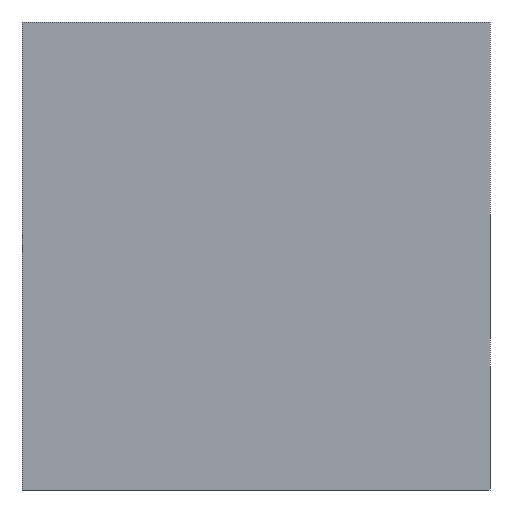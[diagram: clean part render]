
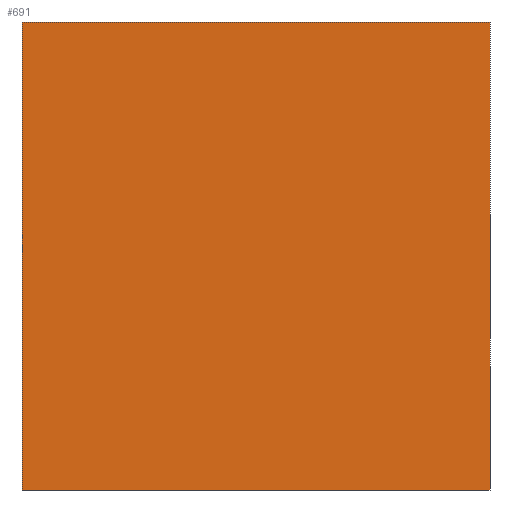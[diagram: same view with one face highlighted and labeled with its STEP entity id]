
A CAD part, front view. The second image highlights one B-rep face of the part: STEP entity #691.
In plain terms, the highlighted planar face has unit normal (0, -1, 0).
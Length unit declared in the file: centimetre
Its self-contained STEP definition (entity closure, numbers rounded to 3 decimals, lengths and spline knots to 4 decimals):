
#1 = CARTESIAN_POINT ( 'NONE',  ( 0., 0., 0. ) ) ;
#14 = ORIENTED_EDGE ( 'NONE', *, *, #858, .F. ) ;
#17 = VERTEX_POINT ( 'NONE', #165 ) ;
#125 = EDGE_CURVE ( 'NONE', #644, #176, #410, .T. ) ;
#165 = CARTESIAN_POINT ( 'NONE',  ( 0., 0., 1000. ) ) ;
#176 = VERTEX_POINT ( 'NONE', #505 ) ;
#268 = ORIENTED_EDGE ( 'NONE', *, *, #437, .T. ) ;
#308 = PLANE ( 'NONE',  #919 ) ;
#317 = DIRECTION ( 'NONE',  ( 0., 0., -1. ) ) ;
#353 = CARTESIAN_POINT ( 'NONE',  ( 0., 0., 0. ) ) ;
#402 = CARTESIAN_POINT ( 'NONE',  ( 1000., 0., 1000. ) ) ;
#410 = LINE ( 'NONE', #402, #962 ) ;
#423 = VERTEX_POINT ( 'NONE', #353 ) ;
#437 = EDGE_CURVE ( 'NONE', #17, #423, #989, .T. ) ;
#447 = LINE ( 'NONE', #845, #871 ) ;
#505 = CARTESIAN_POINT ( 'NONE',  ( 1000., 0., 0. ) ) ;
#531 = ORIENTED_EDGE ( 'NONE', *, *, #684, .T. ) ;
#549 = DIRECTION ( 'NONE',  ( 1., 0., 0. ) ) ;
#574 = ORIENTED_EDGE ( 'NONE', *, *, #125, .F. ) ;
#603 = DIRECTION ( 'NONE',  ( 1., 0., 0. ) ) ;
#628 = LINE ( 'NONE', #1, #681 ) ;
#636 = CARTESIAN_POINT ( 'NONE',  ( 0., 0., 1000. ) ) ;
#638 = EDGE_LOOP ( 'NONE', ( #531, #574, #14, #268 ) ) ;
#644 = VERTEX_POINT ( 'NONE', #714 ) ;
#646 = CARTESIAN_POINT ( 'NONE',  ( 0., 0., 1000. ) ) ;
#681 = VECTOR ( 'NONE', #549, 100. ) ;
#684 = EDGE_CURVE ( 'NONE', #423, #176, #628, .T. ) ;
#691 = ADVANCED_FACE ( 'NONE', ( #863 ), #308, .F. ) ;
#714 = CARTESIAN_POINT ( 'NONE',  ( 1000., 0., 1000. ) ) ;
#789 = VECTOR ( 'NONE', #953, 100. ) ;
#845 = CARTESIAN_POINT ( 'NONE',  ( 0., 0., 1000. ) ) ;
#858 = EDGE_CURVE ( 'NONE', #17, #644, #447, .T. ) ;
#863 = FACE_OUTER_BOUND ( 'NONE', #638, .T. ) ;
#868 = DIRECTION ( 'NONE',  ( 0., 1., 0. ) ) ;
#871 = VECTOR ( 'NONE', #603, 100. ) ;
#919 = AXIS2_PLACEMENT_3D ( 'NONE', #636, #868, #1008 ) ;
#953 = DIRECTION ( 'NONE',  ( 0., 0., -1. ) ) ;
#962 = VECTOR ( 'NONE', #317, 100. ) ;
#989 = LINE ( 'NONE', #646, #789 ) ;
#1008 = DIRECTION ( 'NONE',  ( 0., 0., 1. ) ) ;
